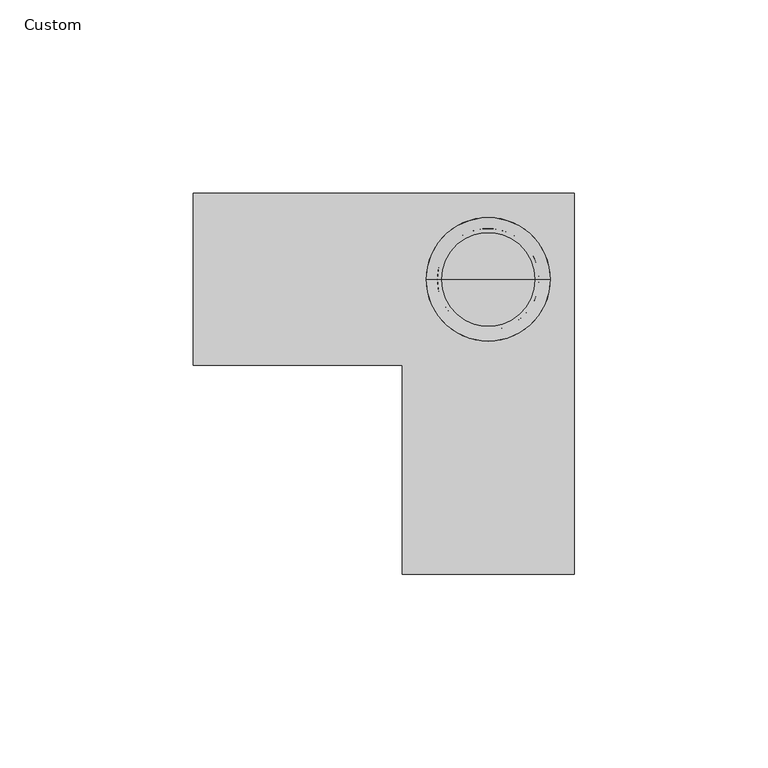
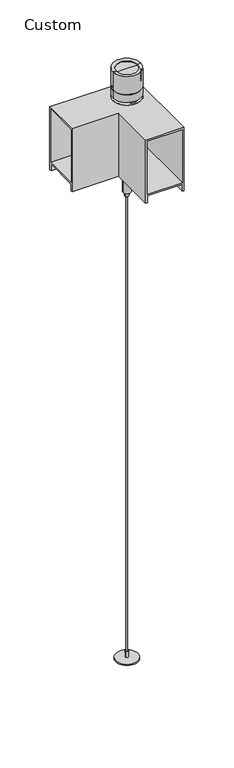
"""IFC4 building model written with IfcOpenShell, lengths in millimetres: light fixture geometry, Lighting-Pendant-Axis-Sculpt-Corner-Accent : Custom."""

from ifc_helpers import new_model, si_unit, point, frame, frame_2d, origin, origin_with_axes, origin_2d, place, context, project, spatial, polyline, circle_curve, ellipse_curve, trimmed, segment, composite_curve, outline, extrude, source, transform, mapped, element, save
from ifc_brep_helpers import plane_surface, cylinder_surface, revolved_surface, advanced_brep


def custom_94ebbfc2(model_context):
    return source(origin(), model_context, "Body", "SolidModel", [
        advanced_brep(
        [(-12.1749998, 0.0, 720.9971034), (12.1749998, 0.0, 720.9971034), (15.9999994, 0.0, 721.52002), (-15.9999994, 0.0, 721.52002), (-12.1749998, 0.0, 720.2033534), (12.1749998, 0.0, 720.2033534), (-14.0, 0.0, 720.2033534), (14.0, 0.0, 720.2033534), (-14.0, 0.0, 705.9033531), (14.0, 0.0, 705.9033531), (-12.4999997, 0.0, 705.9033531), (12.4999997, 0.0, 705.9033531), (-12.4999997, 0.0, 707.5033531), (12.4999997, 0.0, 707.5033531), (0.0, 0.0, 707.5033531), (-15.9999994, 0.0, 689.9033527), (15.9999994, 0.0, 689.9033527), (0.0, 0.0, 689.9033527), (-15.9999994, 0.0, 698.9033533), (15.9999994, 0.0, 698.9033533), (-15.2062494, 0.0, 698.9033533), (15.2062494, 0.0, 698.9033533), (-15.2062494, 0.0, 699.6971033), (15.2062494, 0.0, 699.6971033), (-15.9999994, 0.0, 699.6971033), (15.9999994, 0.0, 699.6971033)],
        [
            (0, 1, circle_curve(frame((0.0, 0.0, 720.9971034), z_axis=(0.0, 0.0, -1.0), x_axis=(1.0, 0.0, 0.0)), 12.1749998)),
            (1, 2),
            (2, 3, circle_curve(frame((0.0, 0.0, 721.52002), z_axis=(0.0, 0.0, 1.0), x_axis=(1.0, 0.0, 0.0)), 15.9999994)),
            (3, 0),
            (1, 0, circle_curve(frame((0.0, 0.0, 720.9971034), z_axis=(0.0, 0.0, -1.0), x_axis=(1.0, 0.0, 0.0)), 12.1749998)),
            (3, 2, circle_curve(frame((0.0, 0.0, 721.52002), z_axis=(0.0, 0.0, 1.0), x_axis=(1.0, 0.0, 0.0)), 15.9999994)),
            (4, 5, circle_curve(frame((0.0, 0.0, 720.2033534), z_axis=(0.0, 0.0, -1.0), x_axis=(1.0, 0.0, 0.0)), 12.1749998)),
            (5, 1),
            (0, 4),
            (5, 4, circle_curve(frame((0.0, 0.0, 720.2033534), z_axis=(0.0, 0.0, -1.0), x_axis=(1.0, 0.0, 0.0)), 12.1749998)),
            (6, 7, circle_curve(frame((0.0, 0.0, 720.2033534), z_axis=(0.0, 0.0, -1.0), x_axis=(1.0, 0.0, 0.0)), 14.0)),
            (7, 5),
            (4, 6),
            (7, 6, circle_curve(frame((0.0, 0.0, 720.2033534), z_axis=(0.0, 0.0, -1.0), x_axis=(1.0, 0.0, 0.0)), 14.0)),
            (8, 9, circle_curve(frame((0.0, 0.0, 705.9033531), z_axis=(0.0, 0.0, -1.0), x_axis=(1.0, 0.0, 0.0)), 14.0)),
            (9, 7),
            (6, 8),
            (9, 8, circle_curve(frame((0.0, 0.0, 705.9033531), z_axis=(0.0, 0.0, -1.0), x_axis=(1.0, 0.0, 0.0)), 14.0)),
            (10, 11, circle_curve(frame((0.0, 0.0, 705.9033531), z_axis=(0.0, 0.0, -1.0), x_axis=(1.0, 0.0, 0.0)), 12.4999997)),
            (11, 9),
            (8, 10),
            (11, 10, circle_curve(frame((0.0, 0.0, 705.9033531), z_axis=(0.0, 0.0, -1.0), x_axis=(1.0, 0.0, 0.0)), 12.4999997)),
            (12, 13, circle_curve(frame((0.0, 0.0, 707.5033531), z_axis=(0.0, 0.0, -1.0), x_axis=(1.0, 0.0, 0.0)), 12.4999997)),
            (13, 11),
            (10, 12),
            (13, 12, circle_curve(frame((0.0, 0.0, 707.5033531), z_axis=(0.0, 0.0, -1.0), x_axis=(1.0, 0.0, 0.0)), 12.4999997)),
            (14, 13),
            (12, 14),
            (15, 16, circle_curve(frame((0.0, 0.0, 689.9033527), z_axis=(0.0, 0.0, -1.0), x_axis=(1.0, 0.0, 0.0)), 15.9999994)),
            (16, 17),
            (17, 15),
            (16, 15, circle_curve(frame((0.0, 0.0, 689.9033527), z_axis=(0.0, 0.0, -1.0), x_axis=(1.0, 0.0, 0.0)), 15.9999994)),
            (18, 19, circle_curve(frame((0.0, 0.0, 698.9033533), z_axis=(0.0, 0.0, -1.0), x_axis=(1.0, 0.0, 0.0)), 15.9999994)),
            (19, 16),
            (15, 18),
            (19, 18, circle_curve(frame((0.0, 0.0, 698.9033533), z_axis=(0.0, 0.0, -1.0), x_axis=(1.0, 0.0, 0.0)), 15.9999994)),
            (20, 21, circle_curve(frame((0.0, 0.0, 698.9033533), z_axis=(0.0, 0.0, -1.0), x_axis=(1.0, 0.0, 0.0)), 15.2062494)),
            (21, 19),
            (18, 20),
            (21, 20, circle_curve(frame((0.0, 0.0, 698.9033533), z_axis=(0.0, 0.0, -1.0), x_axis=(1.0, 0.0, 0.0)), 15.2062494)),
            (22, 23, circle_curve(frame((0.0, 0.0, 699.6971033), z_axis=(0.0, 0.0, -1.0), x_axis=(1.0, 0.0, 0.0)), 15.2062494)),
            (23, 21),
            (20, 22),
            (23, 22, circle_curve(frame((0.0, 0.0, 699.6971033), z_axis=(0.0, 0.0, -1.0), x_axis=(1.0, 0.0, 0.0)), 15.2062494)),
            (24, 25, circle_curve(frame((0.0, 0.0, 699.6971033), z_axis=(0.0, 0.0, -1.0), x_axis=(1.0, 0.0, 0.0)), 15.9999994)),
            (25, 23),
            (22, 24),
            (25, 24, circle_curve(frame((0.0, 0.0, 699.6971033), z_axis=(0.0, 0.0, -1.0), x_axis=(1.0, 0.0, 0.0)), 15.9999994)),
            (2, 25),
            (24, 3),
        ],
        [
            revolved_surface(polyline([(15.9999994, 0.0, 721.52002), (12.1749998, 0.0, 720.9971034)]), (0.0, 0.0, 2923.1350231), (0.0, 0.0, 1.0)),
            revolved_surface(polyline([(12.1749998, 0.0, 720.9971034), (12.1749998, 0.0, 720.2033533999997)]), (0.0, 0.0, 2923.1350231), (0.0, 0.0, 1.0)),
            plane_surface(frame((0.0, 0.0, 720.2033534), z_axis=(0.0, 0.0, -1.0), x_axis=(1.0, 0.0, 0.0))),
            revolved_surface(polyline([(14.0, 0.0, 720.2033533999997), (14.0, 0.0, 705.9033531)]), (0.0, 0.0, 2923.1350231), (0.0, 0.0, 1.0)),
            plane_surface(frame((0.0, 0.0, 705.9033531), z_axis=(0.0, 0.0, 1.0), x_axis=(1.0, 0.0, 0.0))),
            cylinder_surface(frame((0.0, 0.0, 2923.1350231), z_axis=(0.0, 0.0, 1.0), x_axis=(1.0, 0.0, 0.0)), 12.4999997),
            plane_surface(frame((0.0, 0.0, 707.5033531), z_axis=(0.0, 0.0, 1.0), x_axis=(1.0, 0.0, 0.0))),
            plane_surface(frame((0.0, 0.0, 689.9033527), z_axis=(0.0, 0.0, -1.0), x_axis=(1.0, 0.0, 0.0))),
            cylinder_surface(frame((0.0, 0.0, 2923.1350231), z_axis=(0.0, 0.0, 1.0), x_axis=(1.0, 0.0, 0.0)), 15.9999994),
            plane_surface(frame((0.0, 0.0, 698.9033533), z_axis=(0.0, 0.0, 1.0), x_axis=(1.0, 0.0, 0.0))),
            cylinder_surface(frame((0.0, 0.0, 2923.1350231), z_axis=(0.0, 0.0, 1.0), x_axis=(1.0, 0.0, 0.0)), 15.2062494),
            plane_surface(frame((0.0, 0.0, 699.6971033), z_axis=(0.0, 0.0, -1.0), x_axis=(1.0, 0.0, 0.0))),
        ],
        [
            (0, [[1, 2, 3, 4]]),
            (0, [[5, -4, 6, -2]]),
            (1, [[7, 8, -1, 9]]),
            (1, [[10, -9, -5, -8]]),
            (2, [[11, 12, -7, 13]]),
            (2, [[14, -13, -10, -12]]),
            (3, [[15, 16, -11, 17]]),
            (3, [[18, -17, -14, -16]]),
            (4, [[19, 20, -15, 21]]),
            (4, [[22, -21, -18, -20]]),
            (5, [[23, 24, -19, 25]]),
            (5, [[26, -25, -22, -24]]),
            (6, [[27, -23, 28]]),
            (6, [[-28, -26, -27]]),
            (7, [[29, 30, 31]]),
            (7, [[32, -31, -30]]),
            (8, [[33, 34, -29, 35]]),
            (8, [[36, -35, -32, -34]]),
            (9, [[37, 38, -33, 39]]),
            (9, [[40, -39, -36, -38]]),
            (10, [[41, 42, -37, 43]]),
            (10, [[44, -43, -40, -42]]),
            (11, [[45, 46, -41, 47]]),
            (11, [[48, -47, -44, -46]]),
            (8, [[-3, 49, -45, 50]]),
            (8, [[-6, -50, -48, -49]]),
        ],
    ),
        advanced_brep(
        [(-12.4525096, 0.0, 719.3533539), (12.4525096, 0.0, 719.3533539), (4.8863176, 0.0, 707.5033531), (-4.8863176, 0.0, 707.5033531), (-13.2500003, 0.0, 719.3533539), (13.2500003, 0.0, 719.3533539), (-13.2203172, 0.0, 720.2033534), (13.2203172, 0.0, 720.2033534), (0.0, 0.0, 720.2033534), (-3.7500001, 0.0, 713.5104959), (3.7500001, 0.0, 713.5104959), (0.0, 0.0, 711.9033531), (-3.959774, 0.0, 707.5033531), (3.959774, 0.0, 707.5033531)],
        [
            (0, 1, circle_curve(frame((0.0, 0.0, 719.3533539), z_axis=(0.0, 0.0, -1.0), x_axis=(1.0, 0.0, 0.0)), 12.4525096)),
            (1, 2, circle_curve(frame((-55.2491331, 0.0, 754.2401648), z_axis=(0.0, 1.0, 0.0), x_axis=(0.8889199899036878, 0.0, -0.4580624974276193)), 76.1616833)),
            (2, 3, circle_curve(frame((0.0, 0.0, 707.5033531), z_axis=(0.0, 0.0, 1.0), x_axis=(1.0, 0.0, 0.0)), 4.8863176)),
            (3, 0, circle_curve(frame((55.2491331, 0.0, 754.2401648), z_axis=(0.0, 1.0, 0.0), x_axis=(-0.8889199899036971, 0.0, -0.45806249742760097)), 76.1616833)),
            (1, 0, circle_curve(frame((0.0, 0.0, 719.3533539), z_axis=(0.0, 0.0, -1.0), x_axis=(1.0, 0.0, 0.0)), 12.4525096)),
            (3, 2, circle_curve(frame((0.0, 0.0, 707.5033531), z_axis=(0.0, 0.0, 1.0), x_axis=(1.0, 0.0, 0.0)), 4.8863176)),
            (4, 5, circle_curve(frame((0.0, 0.0, 719.3533539), z_axis=(0.0, 0.0, -1.0), x_axis=(1.0, 0.0, 0.0)), 13.2500003)),
            (5, 1),
            (0, 4),
            (5, 4, circle_curve(frame((0.0, 0.0, 719.3533539), z_axis=(0.0, 0.0, -1.0), x_axis=(1.0, 0.0, 0.0)), 13.2500003)),
            (6, 7, circle_curve(frame((0.0, 0.0, 720.2033534), z_axis=(0.0, 0.0, -1.0), x_axis=(1.0, 0.0, 0.0)), 13.2203172)),
            (7, 5),
            (4, 6),
            (7, 6, circle_curve(frame((0.0, 0.0, 720.2033534), z_axis=(0.0, 0.0, -1.0), x_axis=(1.0, 0.0, 0.0)), 13.2203172)),
            (8, 7),
            (6, 8),
            (9, 10, circle_curve(frame((0.0, 0.0, 713.5104959), z_axis=(0.0, 0.0, -1.0), x_axis=(1.0, 0.0, 0.0)), 3.7500001)),
            (10, 11, circle_curve(frame((0.0626217, 0.0, 716.9358075), z_axis=(0.0, 1.0, 0.0), x_axis=(0.732662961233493, 0.0, -0.6805916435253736)), 5.0328441)),
            (11, 9, circle_curve(frame((-0.0626217, 0.0, 716.9358075), z_axis=(0.0, 1.0, 0.0), x_axis=(-0.7326629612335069, 0.0, -0.6805916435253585)), 5.0328441)),
            (10, 9, circle_curve(frame((0.0, 0.0, 713.5104959), z_axis=(0.0, 0.0, -1.0), x_axis=(1.0, 0.0, 0.0)), 3.7500001)),
            (12, 13, circle_curve(frame((0.0, 0.0, 707.5033531), z_axis=(0.0, 0.0, -1.0), x_axis=(1.0, 0.0, 0.0)), 3.959774)),
            (13, 10),
            (9, 12),
            (13, 12, circle_curve(frame((0.0, 0.0, 707.5033531), z_axis=(0.0, 0.0, -1.0), x_axis=(1.0, 0.0, 0.0)), 3.959774)),
            (2, 13),
            (12, 3),
        ],
        [
            revolved_surface(trimmed(ellipse_curve(frame((-55.2491331, 0.0, 754.2401648), z_axis=(0.0, -1.0, 0.0), x_axis=(0.8889199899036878, 0.0, -0.4580624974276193)), 76.1616833, 76.1616833), [point((4.8863176, 0.0, 707.5033531))], [point((12.4525096, 0.0, 719.3533539))], True, "CARTESIAN"), (0.0, 0.0, 2923.1350231), (0.0, 0.0, 1.0)),
            plane_surface(frame((0.0, 0.0, 719.3533539), z_axis=(0.0, 0.0, -1.0), x_axis=(1.0, 0.0, 0.0))),
            revolved_surface(polyline([(13.2500003, 0.0, 719.3533539), (13.2203172, 0.0, 720.2033534)]), (0.0, 0.0, 2923.1350231), (0.0, 0.0, 1.0)),
            plane_surface(frame((0.0, 0.0, 720.2033534), z_axis=(0.0, 0.0, 1.0), x_axis=(1.0, 0.0, 0.0))),
            revolved_surface(trimmed(ellipse_curve(frame((0.0626217, 0.0, 716.9358075), z_axis=(0.0, -1.0, 0.0), x_axis=(0.732662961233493, 0.0, -0.6805916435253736)), 5.0328441, 5.0328441), [point((0.0, 0.0, 711.9033531))], [point((3.7500001, 0.0, 713.5104959))], True, "CARTESIAN"), (0.0, 0.0, 2923.1350231), (0.0, 0.0, 1.0)),
            revolved_surface(polyline([(3.7500001, 0.0, 713.5104959), (3.959774, 0.0, 707.5033531)]), (0.0, 0.0, 2923.1350231), (0.0, 0.0, 1.0)),
            plane_surface(frame((0.0, 0.0, 707.5033531), z_axis=(0.0, 0.0, -1.0), x_axis=(1.0, 0.0, 0.0))),
        ],
        [
            (0, [[1, 2, 3, 4]]),
            (0, [[5, -4, 6, -2]]),
            (1, [[7, 8, -1, 9]]),
            (1, [[10, -9, -5, -8]]),
            (2, [[11, 12, -7, 13]]),
            (2, [[14, -13, -10, -12]]),
            (3, [[15, -11, 16]]),
            (3, [[-16, -14, -15]]),
            (4, [[17, 18, 19]]),
            (4, [[20, -19, -18]]),
            (5, [[21, 22, -17, 23]]),
            (5, [[24, -23, -20, -22]]),
            (6, [[-3, 25, -21, 26]]),
            (6, [[-6, -26, -24, -25]]),
        ],
    ),
        extrude(outline(composite_curve([segment(trimmed(circle_curve(frame_2d((-9.525, 692.94502)), 3.9750181), [point((-13.5000181, 692.94502))], [point((-5.5499819, 692.94502))], False, "CARTESIAN"), True, "CONTINUOUS"), segment(polyline([(-5.5499819, 692.94502), (-5.5499819, 686.59502), (-13.5000181, 686.59502), (-13.5000181, 692.94502)]), True, "CONTINUOUS")], self_intersect=False)), frame((-2.9999793, 0.0, 0.0), z_axis=(1.0, 0.0, 0.0), x_axis=(0.0, 1.0, 0.0)), (0.0, 0.0, 1.0), 5.9999586),
        advanced_brep(
        [(0.0, 0.0, 648.4400175), (0.0, -10.1695708, 648.4400175), (0.0, 10.1695708, 648.4400175), (0.0, 15.9999994, 686.59502), (0.0, -15.9999994, 686.59502), (0.0, 0.0, 686.59502), (0.0, 15.9999994, 685.0950188), (0.0, -15.9999994, 685.0950188), (0.0, 10.1695708, 685.0950188), (0.0, -10.1695708, 685.0950188)],
        [
            (0, 1),
            (1, 2, circle_curve(frame((0.0, 0.0, 648.4400175), z_axis=(0.0, 0.0, -1.0), x_axis=(0.0, -1.0, 0.0)), 10.1695708)),
            (2, 0),
            (2, 1, circle_curve(frame((0.0, 0.0, 648.4400175), z_axis=(0.0, 0.0, -1.0), x_axis=(0.0, -1.0, 0.0)), 10.1695708)),
            (3, 4, circle_curve(frame((0.0, 0.0, 686.59502), z_axis=(0.0, 0.0, 1.0), x_axis=(0.0, -1.0, 0.0)), 15.9999994)),
            (4, 5),
            (5, 3),
            (4, 3, circle_curve(frame((0.0, 0.0, 686.59502), z_axis=(0.0, 0.0, 1.0), x_axis=(0.0, -1.0, 0.0)), 15.9999994)),
            (6, 7, circle_curve(frame((0.0, 0.0, 685.0950188), z_axis=(0.0, 0.0, 1.0), x_axis=(0.0, -1.0, 0.0)), 15.9999994)),
            (7, 4),
            (3, 6),
            (7, 6, circle_curve(frame((0.0, 0.0, 685.0950188), z_axis=(0.0, 0.0, 1.0), x_axis=(0.0, -1.0, 0.0)), 15.9999994)),
            (8, 9, circle_curve(frame((0.0, 0.0, 685.0950188), z_axis=(0.0, 0.0, 1.0), x_axis=(0.0, -1.0, 0.0)), 10.1695708)),
            (9, 7),
            (6, 8),
            (9, 8, circle_curve(frame((0.0, 0.0, 685.0950188), z_axis=(0.0, 0.0, 1.0), x_axis=(0.0, -1.0, 0.0)), 10.1695708)),
            (1, 9),
            (8, 2),
        ],
        [
            plane_surface(frame((0.0, 0.0, 648.4400175), z_axis=(0.0, 0.0, -1.0), x_axis=(0.0, -1.0, 0.0))),
            plane_surface(frame((0.0, 0.0, 686.59502), z_axis=(0.0, 0.0, 1.0), x_axis=(0.0, -1.0, 0.0))),
            cylinder_surface(frame((0.0, 0.0, 3036.7518143), z_axis=(0.0, 0.0, -1.0), x_axis=(0.0, -1.0, 0.0)), 15.9999994),
            plane_surface(frame((0.0, 0.0, 685.0950188), z_axis=(0.0, 0.0, -1.0), x_axis=(0.0, -1.0, 0.0))),
            cylinder_surface(frame((0.0, 0.0, 3036.7518143), z_axis=(0.0, 0.0, -1.0), x_axis=(0.0, -1.0, 0.0)), 10.1695708),
        ],
        [
            (0, [[1, 2, 3]]),
            (0, [[-3, 4, -1]]),
            (1, [[5, 6, 7]]),
            (1, [[8, -7, -6]]),
            (2, [[9, 10, -5, 11]]),
            (2, [[12, -11, -8, -10]]),
            (3, [[13, 14, -9, 15]]),
            (3, [[16, -15, -12, -14]]),
            (4, [[-2, 17, -13, 18]]),
            (4, [[-4, -18, -16, -17]]),
        ],
    ),
        advanced_brep(
        [(-4.5719999, 0.0, 604.4810805), (4.5719999, 0.0, 604.4810805), (4.5719999, 0.0, 570.5474987), (-4.5719999, 0.0, 570.5474987), (-7.8962633, 0.0, 609.6), (7.8962633, 0.0, 609.6), (-2.2859999, 0.0, 565.4674991), (2.2859999, 0.0, 565.4674991), (0.0, 0.0, 565.4674991), (-2.2859999, 0.0, 570.5474987), (2.2859999, 0.0, 570.5474987), (-7.8962633, 0.0, 618.0455013), (7.8962633, 0.0, 618.0455013), (0.0, 0.0, 618.0455013)],
        [
            (0, 1, circle_curve(frame((0.0, 0.0, 604.4810805), z_axis=(0.0, 0.0, -1.0), x_axis=(1.0, 0.0, 0.0)), 4.5719999)),
            (1, 2),
            (2, 3, circle_curve(frame((0.0, 0.0, 570.5474987), z_axis=(0.0, 0.0, 1.0), x_axis=(1.0, 0.0, 0.0)), 4.5719999)),
            (3, 0),
            (1, 0, circle_curve(frame((0.0, 0.0, 604.4810805), z_axis=(0.0, 0.0, -1.0), x_axis=(1.0, 0.0, 0.0)), 4.5719999)),
            (3, 2, circle_curve(frame((0.0, 0.0, 570.5474987), z_axis=(0.0, 0.0, 1.0), x_axis=(1.0, 0.0, 0.0)), 4.5719999)),
            (4, 5, circle_curve(frame((0.0, 0.0, 609.6), z_axis=(0.0, 0.0, -1.0), x_axis=(1.0, 0.0, 0.0)), 7.8962633)),
            (5, 1),
            (0, 4),
            (5, 4, circle_curve(frame((0.0, 0.0, 609.6), z_axis=(0.0, 0.0, -1.0), x_axis=(1.0, 0.0, 0.0)), 7.8962633)),
            (6, 7, circle_curve(frame((0.0, 0.0, 565.4674991), z_axis=(0.0, 0.0, -1.0), x_axis=(1.0, 0.0, 0.0)), 2.2859999)),
            (7, 8),
            (8, 6),
            (7, 6, circle_curve(frame((0.0, 0.0, 565.4674991), z_axis=(0.0, 0.0, -1.0), x_axis=(1.0, 0.0, 0.0)), 2.2859999)),
            (9, 10, circle_curve(frame((0.0, 0.0, 570.5474987), z_axis=(0.0, 0.0, -1.0), x_axis=(1.0, 0.0, 0.0)), 2.2859999)),
            (10, 7),
            (6, 9),
            (10, 9, circle_curve(frame((0.0, 0.0, 570.5474987), z_axis=(0.0, 0.0, -1.0), x_axis=(1.0, 0.0, 0.0)), 2.2859999)),
            (2, 10),
            (9, 3),
            (11, 12, circle_curve(frame((0.0, 0.0, 618.0455013), z_axis=(0.0, 0.0, -1.0), x_axis=(1.0, 0.0, 0.0)), 7.8962633)),
            (12, 5),
            (4, 11),
            (12, 11, circle_curve(frame((0.0, 0.0, 618.0455013), z_axis=(0.0, 0.0, -1.0), x_axis=(1.0, 0.0, 0.0)), 7.8962633)),
            (13, 12),
            (11, 13),
        ],
        [
            cylinder_surface(frame((0.0, 0.0, 2761.4581012), z_axis=(0.0, 0.0, 1.0), x_axis=(1.0, 0.0, 0.0)), 4.5719999),
            revolved_surface(polyline([(4.5719999, 0.0, 604.4810805), (7.8962633, 0.0, 609.6)]), (0.0, 0.0, 2761.4581012), (0.0, 0.0, 1.0)),
            plane_surface(frame((0.0, 0.0, 565.4674991), z_axis=(0.0, 0.0, -1.0), x_axis=(1.0, 0.0, 0.0))),
            cylinder_surface(frame((0.0, 0.0, 2761.4581012), z_axis=(0.0, 0.0, 1.0), x_axis=(1.0, 0.0, 0.0)), 2.2859999),
            plane_surface(frame((0.0, 0.0, 570.5474987), z_axis=(0.0, 0.0, -1.0), x_axis=(1.0, 0.0, 0.0))),
            cylinder_surface(frame((0.0, 0.0, 2761.4581012), z_axis=(0.0, 0.0, 1.0), x_axis=(1.0, 0.0, 0.0)), 7.8962633),
            plane_surface(frame((0.0, 0.0, 618.0455013), z_axis=(0.0, 0.0, 1.0), x_axis=(1.0, 0.0, 0.0))),
        ],
        [
            (0, [[1, 2, 3, 4]]),
            (0, [[5, -4, 6, -2]]),
            (1, [[7, 8, -1, 9]]),
            (1, [[10, -9, -5, -8]]),
            (2, [[11, 12, 13]]),
            (2, [[14, -13, -12]]),
            (3, [[15, 16, -11, 17]]),
            (3, [[18, -17, -14, -16]]),
            (4, [[-3, 19, -15, 20]]),
            (4, [[-6, -20, -18, -19]]),
            (5, [[21, 22, -7, 23]]),
            (5, [[24, -23, -10, -22]]),
            (6, [[25, -21, 26]]),
            (6, [[-26, -24, -25]]),
        ],
    ),
        extrude(outline(composite_curve([segment(trimmed(circle_curve(origin_2d(), 0.79375), [point((-0.79375, 0.0))], [point((0.79375, 0.0))], False, "CARTESIAN"), True, "CONTINUOUS"), segment(trimmed(circle_curve(origin_2d(), 0.79375), [point((0.79375, 0.0))], [point((-0.79375, 0.0))], False, "CARTESIAN"), True, "CONTINUOUS")], self_intersect=False)), origin_with_axes(), (0.0, 0.0, 1.0), 565.4674991),
        extrude(outline(composite_curve([segment(trimmed(circle_curve(origin_2d(), 12.7), [point((-12.7, 0.0))], [point((12.7, 0.0))], False, "CARTESIAN"), True, "CONTINUOUS"), segment(trimmed(circle_curve(origin_2d(), 12.7), [point((12.7, 0.0))], [point((-12.7, 0.0))], False, "CARTESIAN"), True, "CONTINUOUS")], self_intersect=False)), origin_with_axes(), (0.0, 0.0, 1.0), 1.5875),
        extrude(outline(composite_curve([segment(trimmed(circle_curve(origin_2d(), 1.5875), [point((-1.5875, 0.0))], [point((1.5875, 0.0))], False, "CARTESIAN"), True, "CONTINUOUS"), segment(trimmed(circle_curve(origin_2d(), 1.5875), [point((1.5875, 0.0))], [point((-1.5875, 0.0))], False, "CARTESIAN"), True, "CONTINUOUS")], self_intersect=False)), frame((0.0, 0.0, 1.5875), z_axis=(0.0, 0.0, 1.0), x_axis=(1.0, 0.0, 0.0)), (0.0, 0.0, 1.0), 7.9375),
        advanced_brep(
        [(-76.2, 22.225, 609.6), (-76.2, 20.193, 609.6), (-76.2, 20.193, 618.0455), (-76.2, -20.193, 618.0455), (-76.2, -20.193, 609.6), (-76.2, -22.225, 609.6), (-76.2, -22.225, 686.59375), (-76.2, 22.225, 686.59375), (-76.2, -20.193, 620.0775), (-76.2, 20.193, 620.0775), (-76.2, 20.193, 684.56175), (-76.2, -20.193, 684.56175), (-20.193, -20.193, 620.0775), (-20.193, -76.2, 620.0775), (20.193, -76.2, 620.0775), (20.193, 20.193, 620.0775), (20.193, 20.193, 684.56175), (20.193, -76.2, 684.56175), (-20.193, -76.2, 684.56175), (-20.193, -20.193, 684.56175), (-15.99946, 0.0, 684.56175), (15.99946, 0.0, 684.56175), (22.225, 22.225, 609.6), (22.225, -76.2, 609.6), (20.193, -76.2, 609.6), (20.193, 20.193, 609.6), (20.193, 20.193, 618.0455), (20.193, -76.2, 618.0455), (-20.193, -76.2, 618.0455), (-20.193, -20.193, 618.0455), (-20.193, -20.193, 609.6), (-20.193, -76.2, 609.6), (-22.225, -76.2, 609.6), (-22.225, -22.225, 609.6), (-22.225, -22.225, 686.59375), (-22.225, -76.2, 686.59375), (22.225, -76.2, 686.59375), (22.225, 22.225, 686.59375), (15.99946, 0.0, 686.59375), (-15.99946, 0.0, 686.59375)],
        [
            (0, 1),
            (1, 2),
            (2, 3),
            (3, 4),
            (4, 5),
            (5, 6),
            (6, 7),
            (7, 0),
            (8, 9),
            (9, 10),
            (10, 11),
            (11, 8),
            (8, 12),
            (12, 13),
            (13, 14),
            (14, 15),
            (15, 9),
            (15, 16),
            (16, 10),
            (16, 17),
            (17, 18),
            (18, 19),
            (19, 11),
            (20, 21, circle_curve(frame((0.0, 0.0, 684.56175), z_axis=(0.0, 0.0, 1.0), x_axis=(1.0, 0.0, 0.0)), 15.99946)),
            (21, 20, circle_curve(frame((0.0, 0.0, 684.56175), z_axis=(0.0, 0.0, 1.0), x_axis=(1.0, 0.0, 0.0)), 15.99946)),
            (19, 12),
            (0, 22),
            (22, 23),
            (23, 24),
            (24, 25),
            (25, 1),
            (25, 26),
            (26, 2),
            (26, 27),
            (27, 28),
            (28, 29),
            (29, 3),
            (29, 30),
            (30, 4),
            (30, 31),
            (31, 32),
            (32, 33),
            (33, 5),
            (33, 34),
            (34, 6),
            (34, 35),
            (35, 36),
            (36, 37),
            (37, 7),
            (38, 39, circle_curve(frame((0.0, 0.0, 686.59375), z_axis=(0.0, 0.0, -1.0), x_axis=(1.0, 0.0, 0.0)), 15.99946)),
            (39, 38, circle_curve(frame((0.0, 0.0, 686.59375), z_axis=(0.0, 0.0, -1.0), x_axis=(1.0, 0.0, 0.0)), 15.99946)),
            (37, 22),
            (23, 36),
            (35, 32),
            (31, 28),
            (27, 24),
            (13, 18),
            (17, 14),
            (20, 39),
            (38, 21),
        ],
        [
            plane_surface(frame((-76.2, 0.0, 0.0), z_axis=(-1.0, 0.0, 0.0), x_axis=(0.0, 0.0, 1.0))),
            plane_surface(frame((-76.2, -20.193, 620.0775), z_axis=(0.0, 0.0, 1.0), x_axis=(1.0, 0.0, 0.0))),
            plane_surface(frame((-76.2, 20.193, 620.0775), z_axis=(0.0, -1.0, 0.0), x_axis=(1.0, 0.0, 0.0))),
            plane_surface(frame((-76.2, 20.193, 684.56175), z_axis=(0.0, 0.0, -1.0), x_axis=(1.0, 0.0, 0.0))),
            plane_surface(frame((-76.2, -20.193, 684.56175), z_axis=(0.0, 1.0, 0.0), x_axis=(1.0, 0.0, 0.0))),
            plane_surface(frame((-76.2, 22.225, 609.6), z_axis=(0.0, 0.0, -1.0), x_axis=(1.0, 0.0, 0.0))),
            plane_surface(frame((-76.2, 20.193, 609.6), z_axis=(0.0, -1.0, 0.0), x_axis=(1.0, 0.0, 0.0))),
            plane_surface(frame((-76.2, 20.193, 618.0455), z_axis=(0.0, 0.0, -1.0), x_axis=(1.0, 0.0, 0.0))),
            plane_surface(frame((-76.2, -20.193, 618.0455), z_axis=(0.0, 1.0, 0.0), x_axis=(1.0, 0.0, 0.0))),
            plane_surface(frame((-76.2, -20.193, 609.6), z_axis=(0.0, 0.0, -1.0), x_axis=(1.0, 0.0, 0.0))),
            plane_surface(frame((-76.2, -22.225, 609.6), z_axis=(0.0, -1.0, 0.0), x_axis=(1.0, 0.0, 0.0))),
            plane_surface(frame((-76.2, -22.225, 686.59375), z_axis=(0.0, 0.0, 1.0), x_axis=(1.0, 0.0, 0.0))),
            plane_surface(frame((-76.2, 22.225, 686.59375), z_axis=(0.0, 1.0, 0.0), x_axis=(1.0, 0.0, 0.0))),
            plane_surface(frame((0.0, -76.2, 0.0), z_axis=(0.0, -1.0, 0.0), x_axis=(0.0, 0.0, 1.0))),
            plane_surface(frame((20.193, 20.193, 620.0775), z_axis=(-1.0, 0.0, 0.0), x_axis=(0.0, -1.0, 0.0))),
            plane_surface(frame((-20.193, -20.193, 684.56175), z_axis=(1.0, 0.0, 0.0), x_axis=(0.0, -1.0, 0.0))),
            plane_surface(frame((20.193, 20.193, 609.6), z_axis=(-1.0, 0.0, 0.0), x_axis=(0.0, -1.0, 0.0))),
            plane_surface(frame((-20.193, -20.193, 618.0455), z_axis=(1.0, 0.0, 0.0), x_axis=(0.0, -1.0, 0.0))),
            plane_surface(frame((-22.225, -22.225, 609.6), z_axis=(-1.0, 0.0, 0.0), x_axis=(0.0, -1.0, 0.0))),
            plane_surface(frame((22.225, 22.225, 686.59375), z_axis=(1.0, 0.0, 0.0), x_axis=(0.0, -1.0, 0.0))),
            revolved_surface(polyline([(15.99946, 0.0, 686.59375), (15.99946, 0.0, 684.56175)]), (0.0, 0.0, 656.2928489), (0.0, 0.0, 1.0)),
        ],
        [
            (0, [[1, 2, 3, 4, 5, 6, 7, 8], [9, 10, 11, 12]]),
            (1, [[-9, 13, 14, 15, 16, 17]]),
            (2, [[-10, -17, 18, 19]]),
            (3, [[-11, -19, 20, 21, 22, 23], [24, 25]]),
            (4, [[-12, -23, 26, -13]]),
            (5, [[-1, 27, 28, 29, 30, 31]]),
            (6, [[-2, -31, 32, 33]]),
            (7, [[-3, -33, 34, 35, 36, 37]]),
            (8, [[-4, -37, 38, 39]]),
            (9, [[-5, -39, 40, 41, 42, 43]]),
            (10, [[-6, -43, 44, 45]]),
            (11, [[-7, -45, 46, 47, 48, 49], [50, 51]]),
            (12, [[-8, -49, 52, -27]]),
            (13, [[-29, 53, -47, 54, -41, 55, -35, 56], [-15, 57, -21, 58]]),
            (14, [[-16, -58, -20, -18]]),
            (15, [[-14, -26, -22, -57]]),
            (16, [[-30, -56, -34, -32]]),
            (17, [[-36, -55, -40, -38]]),
            (18, [[-42, -54, -46, -44]]),
            (19, [[-28, -52, -48, -53]]),
            (20, [[59, -50, 60, -24]]),
            (20, [[-59, -25, -60, -51]]),
        ],
    ),
    ])


if __name__ == "__main__":
    model = new_model("IFC4")
    model_context = context("Model", 3, world=origin())
    ifc_project = project(units=[si_unit("LENGTHUNIT", "METRE", prefix="MILLI")], contexts=[model_context])
    site = spatial("IfcSite", under=ifc_project)
    building = spatial("IfcBuilding", under=site)
    placement = place(None, origin())
    custom_shape = custom_94ebbfc2(model_context)
    element("IfcLightFixture", 1, ObjectType="Lighting-Pendant-Axis-Sculpt-Corner-Accent : Custom", at=placement, inside=building, context=model_context, shape_type="MappedRepresentation", body=[
        mapped(custom_shape, transform((0.0, 0.0, 0.0), x_axis=(1.0, 0.0, 0.0), y_axis=(0.0, 1.0, 0.0), z_axis=(0.0, 0.0, 1.0))),
    ])
    save(model, "model.ifc")
